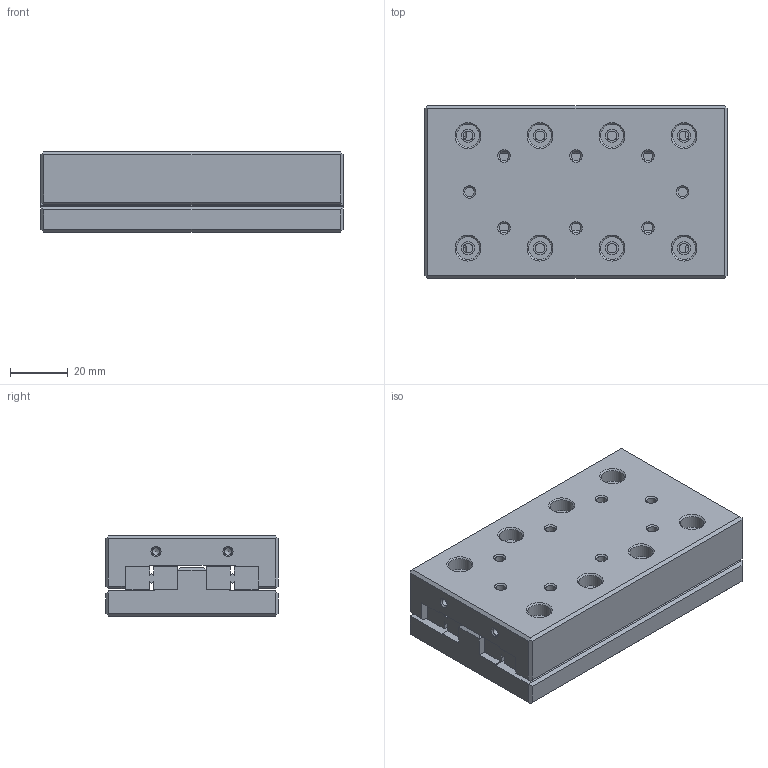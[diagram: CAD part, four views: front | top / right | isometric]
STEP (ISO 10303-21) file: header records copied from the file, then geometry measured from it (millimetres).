
FILE_DESCRIPTION(/* description */ (''),/* implementation_level */ '2;1');
FILE_NAME(/* name */ 'cru3105_stp.stp',/* time_stamp */ '2017-02-28T08:41:54+08:00',/* author */ (''),/* organization */ (''),/* preprocessor_version */ 'ST-DEVELOPER v15',/* originating_system */ 'SIEMENS PLM Software NX 8.5',/* authorisation */ '');
FILE_SCHEMA (('AUTOMOTIVE_DESIGN { 1 0 10303 214 3 1 1 1 }'));
Length unit declared in the file: millimetre
Products named in the file (4): CRU3105-02; CRU3105-GV3100; CRU3105-01; cru3105_stp
Assembly tree (4 placements, depth 2):
  cru3105_stp
    CRU3105-01
    CRU3105-GV3100  x2
    CRU3105-02
Bounding box: 105 x 60 x 28 mm (x, y, z)
Volume: 156008.9 mm3; surface area: 56431.1 mm2
Topology: 4 solids, 4 shells, 432 faces, 1038 edges, 650 vertices
Faces by surface type: cone 156, cylinder 148, plane 128
Full cylindrical faces by diameter (mm): 2.5 x4, 3.3 x12, 4.5 x8, 8 x8
Entity records: 9648 total; most frequent: CARTESIAN_POINT 1799, DIRECTION 1680, ORIENTED_EDGE 1432, EDGE_CURVE 716, AXIS2_PLACEMENT_3D 699, EDGE_LOOP 524, VERTEX_POINT 482, CIRCLE 350
